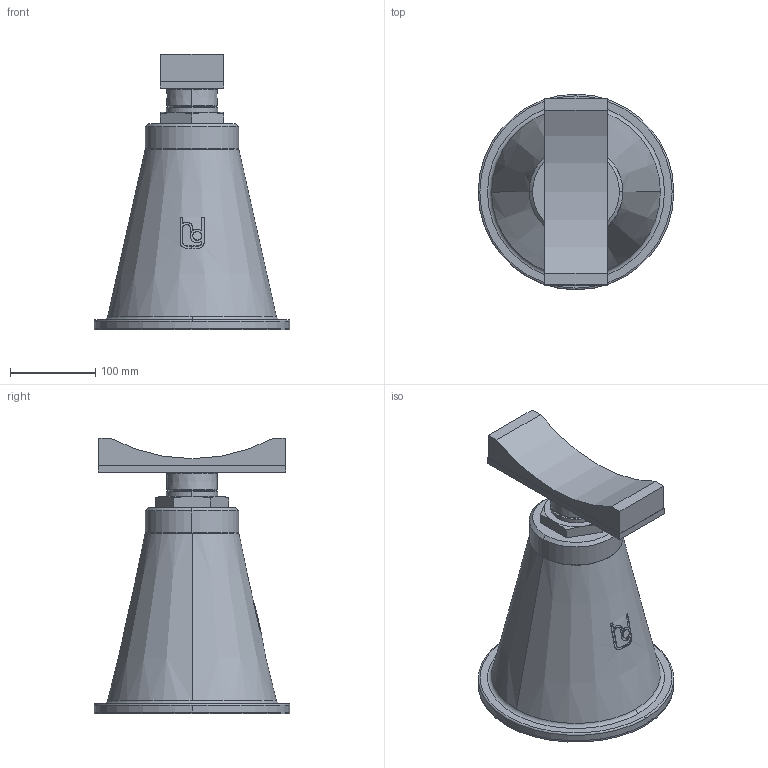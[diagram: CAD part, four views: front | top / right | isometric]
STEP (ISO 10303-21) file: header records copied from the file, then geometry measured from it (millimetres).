
FILE_DESCRIPTION(('STEP AP214'),'1');
FILE_NAME('RSRFA_DN400.stp','2018-06-25T09:58:30',(' '),(' '),'Spatial InterOp 3D',' ',' ');
FILE_SCHEMA(('automotive_design'));
Length unit declared in the file: millimetre
Products named in the file (6): 1; 2; 3; 4; 5; 6
Bounding box: 230 x 230 x 324 mm (x, y, z)
Volume: 5890304.7 mm3; surface area: 425640.7 mm2
Topology: 6 solids, 7 shells, 118 faces, 280 edges, 180 vertices
Faces by surface type: plane 51, cylinder 34, cone 25, torus 8
Entity records: 4854 total; most frequent: CARTESIAN_POINT 1042, DIRECTION 592, ORIENTED_EDGE 560, EDGE_CURVE 280, AXIS2_PLACEMENT_3D 230, VERTEX_POINT 180, LINE 132, VECTOR 132
